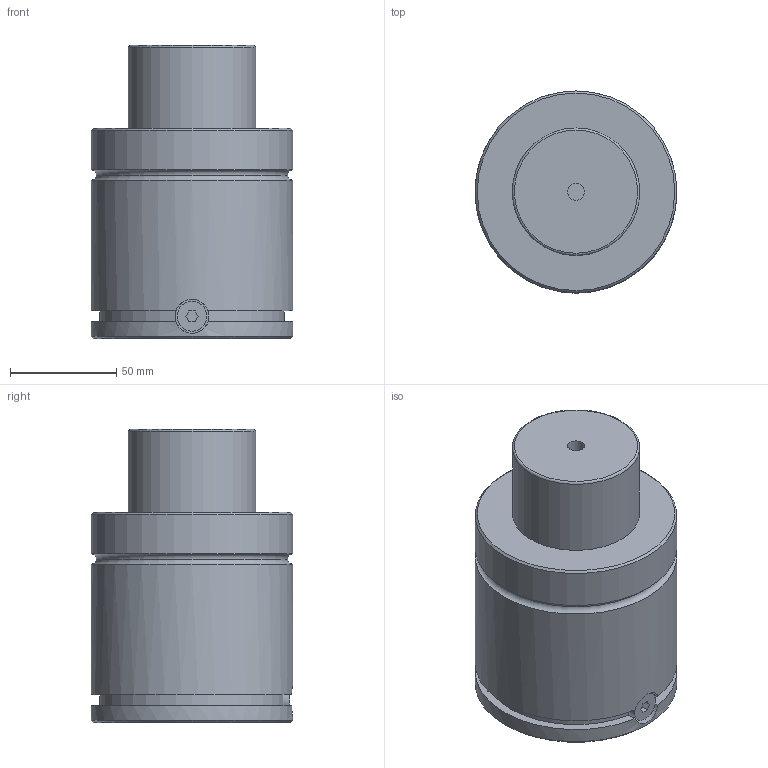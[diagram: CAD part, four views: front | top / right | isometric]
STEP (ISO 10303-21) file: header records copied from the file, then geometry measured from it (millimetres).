
FILE_DESCRIPTION(('FreeCAD Model'),'2;1');
FILE_NAME('Open CASCADE Shape Model','2024-11-12T09:52:54',('Author'),( ''),'Open CASCADE STEP processor 7.6','FreeCAD','Unknown');
FILE_SCHEMA(('AUTOMOTIVE_DESIGN { 1 0 10303 214 1 1 1 1 }'));
Length unit declared in the file: millimetre
Products named in the file (7): Unnamed; Part001; MICRO 95x018; Part015; Cut003; Part016; Cut
Assembly tree (6 placements, depth 3):
  Unnamed
    Part001
      MICRO 95x018
    Part015
      Cut003
    Part016
      Cut
Bounding box: 95 x 95 x 138 mm (x, y, z)
Volume: 800597.6 mm3; surface area: 61582.3 mm2
Topology: 3 solids, 3 shells, 45 faces, 88 edges, 56 vertices
Faces by surface type: plane 22, cylinder 16, cone 4, torus 3
Full cylindrical faces by diameter (mm): 8 x5, 16 x1, 60 x1, 95 x3
Entity records: 1511 total; most frequent: CARTESIAN_POINT 417, DIRECTION 225, ORIENTED_EDGE 176, AXIS2_PLACEMENT_3D 92, EDGE_CURVE 88, VERTEX_POINT 56, FACE_BOUND 52, EDGE_LOOP 52
